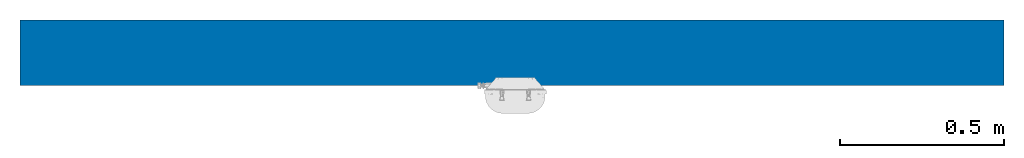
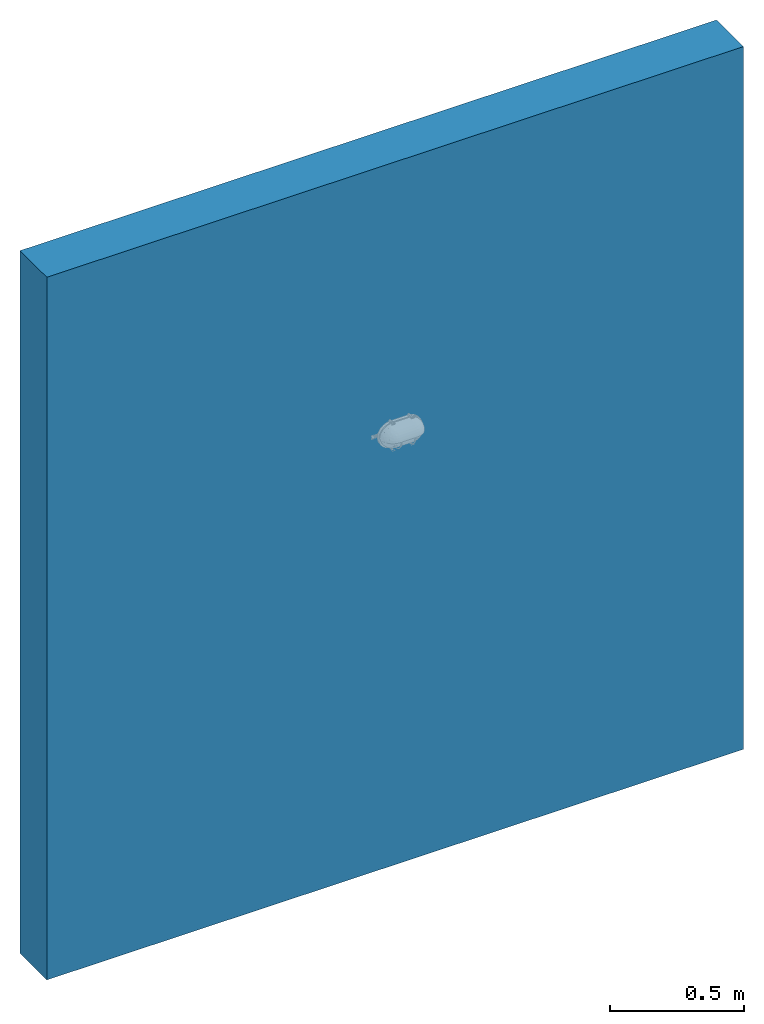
# One storey, incomplete: 1 wall.
"""IFC2X3 building model written with IfcOpenShell, lengths in metres."""

from ifc_helpers import new_model, si_unit, direction, frame, frame_2d, origin, place, context, subcontext, project, spatial, rectangle, extrude, material, layer, layer_set, layer_usage, type_object, element, save


model = new_model("IFC2X3")

# Units and contexts
model_context = context("Model", 3, precision=1e-05, world=origin(), true_north=direction((6.123233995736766e-17, 1.0)))
body_context = subcontext(model_context, "Body", "Model", "MODEL_VIEW")
ifc_project = project(units=[si_unit("LENGTHUNIT", "METRE"), si_unit("AREAUNIT", "SQUARE_METRE")], contexts=[model_context])

# Site, building, storey
site_placement = place(None, origin())
site = spatial("IfcSite", under=ifc_project, at=site_placement, Name="Default", CompositionType="ELEMENT")
building_placement = place(site_placement, origin())
building = spatial("IfcBuilding", under=site, at=building_placement, CompositionType="ELEMENT")
storey_placement = place(building_placement, origin())
storey = spatial("IfcBuildingStorey", under=building, at=storey_placement, Name="Level 1", CompositionType="ELEMENT", Elevation=0.0)

# Wall
ifc_material = material(Name="Default Wall")
ifc_layer = layer(ifc_material, 0.2)
ifc_layer_set = layer_set([ifc_layer], Name="Basic Wall:Wall 20cm2")
ifc_layer_usage = layer_usage(ifc_layer_set, "AXIS2", "NEGATIVE", 0.1)
wall_type = type_object("IfcWallType", Name="Basic Wall:Wall 20cm2", PredefinedType="STANDARD", material=ifc_layer_set)
wall_placement = place(storey_placement, frame((-7.193710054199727, 0.19657549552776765, 0.0)))
element("IfcWallStandardCase", 1, at=wall_placement, inside=storey, type_object=wall_type, material=ifc_layer_usage, Name="Basic Wall:Wall 20cm2", ObjectType="Basic Wall:Wall 20cm2", context=body_context, shape_type="SweptSolid", body=[
    extrude(rectangle(XDim=3.0000000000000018, YDim=0.2, at=frame_2d((1.5000000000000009, 6.938893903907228e-18), x_axis=(-1.0, 0.0))), origin(), (0.0, 0.0, 1.0), 3.2),
])

save(model, "model.ifc")
